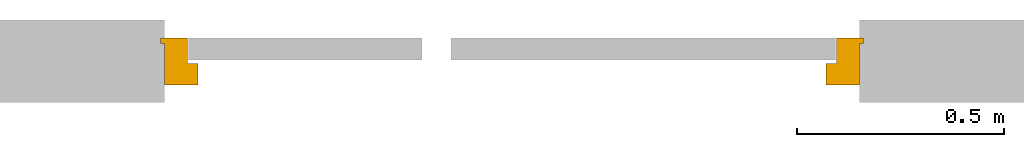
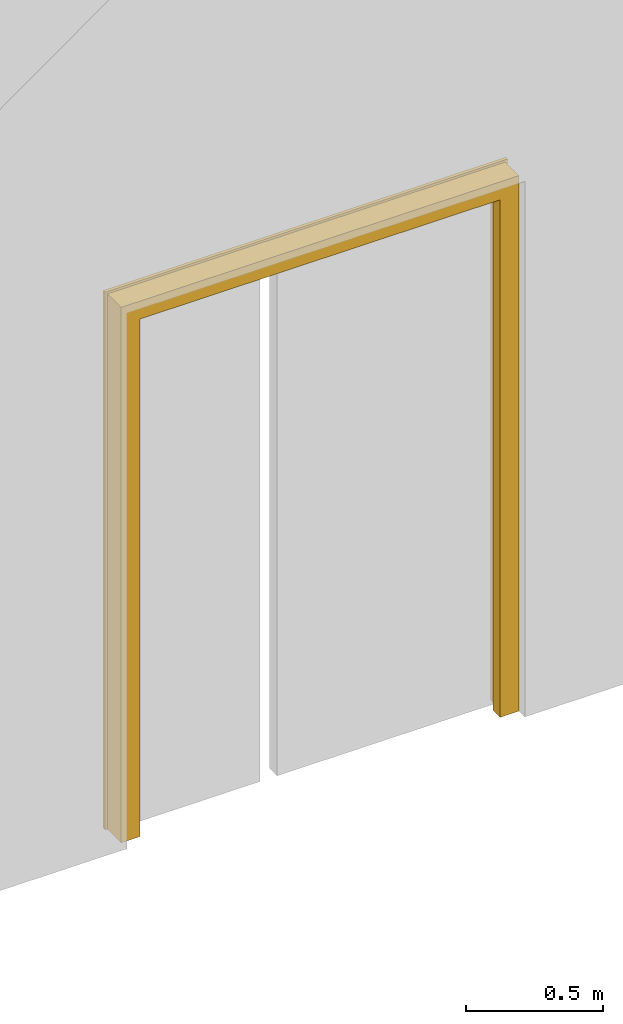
# One storey, part 3 of 3: 1 door.
"""IFC2X3 building model written with IfcOpenShell, lengths in millimetres."""

from ifc_helpers import new_model, entity, si_unit, converted_unit, derived_unit, direction, frame, origin, place, context, subcontext, project, spatial, faceted_brep, source, transform, mapped, material, type_object, type_shapes, element, save


model = new_model("IFC2X3")

# Units and contexts
model_context = context("Model", 3, precision=0.01, world=origin(), true_north=direction((6.12303176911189e-17, 1.0)))
plan_context = context("Plan", 3, precision=0.01, world=origin(), true_north=direction((6.12303176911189e-17, 1.0)))
body_context = subcontext(model_context, "Body", "Model", "MODEL_VIEW")
ifc_project = project(units=[si_unit("LENGTHUNIT", "METRE", prefix="MILLI"), si_unit("AREAUNIT", "SQUARE_METRE"), si_unit("VOLUMEUNIT", "CUBIC_METRE"), converted_unit("PLANEANGLEUNIT", "DEGREE", entity("IfcRatioMeasure", 0.0174532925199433), si_unit("PLANEANGLEUNIT", "RADIAN"), dimensions=[0, 0, 0, 0, 0, 0, 0]), si_unit("MASSUNIT", "GRAM", prefix="KILO"), derived_unit("MASSDENSITYUNIT", [(si_unit("MASSUNIT", "GRAM", prefix="KILO"), 1), (si_unit("LENGTHUNIT", "METRE"), -3)]), derived_unit("MOMENTOFINERTIAUNIT", [(si_unit("LENGTHUNIT", "METRE"), 4)]), si_unit("TIMEUNIT", "SECOND"), si_unit("FREQUENCYUNIT", "HERTZ"), si_unit("THERMODYNAMICTEMPERATUREUNIT", "DEGREE_CELSIUS"), derived_unit("THERMALTRANSMITTANCEUNIT", [(si_unit("MASSUNIT", "GRAM", prefix="KILO"), 1), (si_unit("THERMODYNAMICTEMPERATUREUNIT", "KELVIN"), -1), (si_unit("TIMEUNIT", "SECOND"), -3)]), derived_unit("VOLUMETRICFLOWRATEUNIT", [(si_unit("LENGTHUNIT", "METRE"), 3), (si_unit("TIMEUNIT", "SECOND"), -1)]), si_unit("ELECTRICCURRENTUNIT", "AMPERE"), si_unit("ELECTRICVOLTAGEUNIT", "VOLT"), si_unit("POWERUNIT", "WATT"), si_unit("FORCEUNIT", "NEWTON", prefix="KILO"), si_unit("ILLUMINANCEUNIT", "LUX"), si_unit("LUMINOUSFLUXUNIT", "LUMEN"), si_unit("LUMINOUSINTENSITYUNIT", "CANDELA"), derived_unit("USERDEFINED", [(si_unit("MASSUNIT", "GRAM", prefix="KILO"), -1), (si_unit("LENGTHUNIT", "METRE"), -2), (si_unit("TIMEUNIT", "SECOND"), 3), (si_unit("LUMINOUSFLUXUNIT", "LUMEN"), 1)]), derived_unit("LINEARVELOCITYUNIT", [(si_unit("LENGTHUNIT", "METRE"), 1), (si_unit("TIMEUNIT", "SECOND"), -1)]), si_unit("PRESSUREUNIT", "PASCAL"), derived_unit("USERDEFINED", [(si_unit("LENGTHUNIT", "METRE"), -2), (si_unit("MASSUNIT", "GRAM", prefix="KILO"), 1), (si_unit("TIMEUNIT", "SECOND"), -2)]), derived_unit("LINEARFORCEUNIT", [(si_unit("MASSUNIT", "GRAM", prefix="KILO"), 1), (si_unit("LENGTHUNIT", "METRE"), 1), (si_unit("TIMEUNIT", "SECOND"), -2), (si_unit("LENGTHUNIT", "METRE"), -1)]), derived_unit("PLANARFORCEUNIT", [(si_unit("MASSUNIT", "GRAM", prefix="KILO"), 1), (si_unit("LENGTHUNIT", "METRE"), 1), (si_unit("TIMEUNIT", "SECOND"), -2), (si_unit("LENGTHUNIT", "METRE"), -2)])], contexts=[model_context, plan_context])

# Site, building, storey
site_placement = place(None, origin())
site = spatial("IfcSite", under=ifc_project, at=site_placement, Name="Default", CompositionType="ELEMENT")
building_placement = place(site_placement, origin())
building = spatial("IfcBuilding", under=site, at=building_placement, CompositionType="ELEMENT")
storey_placement = place(building_placement, origin())
storey = spatial("IfcBuildingStorey", under=building, at=storey_placement, Name="Level 1", CompositionType="ELEMENT", Elevation=0.0)

# Door
ifc_material = material(Name="n6_binnenkozijn")
door_style = type_object("IfcDoorStyle", Name="32_houten_kozijn_dubbel:Kozijn", ConstructionType="NOTDEFINED", OperationType="NOTDEFINED", ParameterTakesPrecedence=False, Sizeable=False, material=ifc_material)
shared_shape = source(origin(), body_context, "Body", "Brep", [
    faceted_brep([(850.0, 57.0, 0.0), (850.0, 43.0, 0.0), (840.0, 43.0, 0.0), (840.0, -57.0, 0.0), (760.0, -57.0, 0.0), (760.0, -5.0, 0.0), (785.0, -5.0, 0.0), (785.0, 57.0, 0.0), (850.0, 57.0, 2400.0), (850.0, 43.0, 2400.0), (-850.0, 43.0, 2400.0), (-850.0, 43.0, 0.0), (-840.0, 43.0, 0.0), (-840.0, 43.0, 2390.0), (840.0, 43.0, 2390.0), (840.0, -57.0, 2390.0), (-840.0, -57.0, 2390.0), (-840.0, -57.0, 0.0), (-760.0, -57.0, 0.0), (-760.0, -57.0, 2310.0), (760.0, -57.0, 2310.0), (760.0, -5.0, 2310.0), (-760.0, -5.0, 2310.0), (-760.0, -5.0, 0.0), (-785.0, -5.0, 0.0), (-785.0, -5.0, 2335.0), (785.0, -5.0, 2335.0), (785.0, 57.0, 2335.0), (-785.0, 57.0, 2335.0), (-785.0, 57.0, 0.0), (-850.0, 57.0, 0.0), (-850.0, 57.0, 2400.0)], [[[0, 1, 2, 3, 4, 5, 6, 7]], [[1, 0, 8, 9]], [[2, 1, 9, 10, 11, 12, 13, 14]], [[3, 2, 14, 15]], [[4, 3, 15, 16, 17, 18, 19, 20]], [[5, 4, 20, 21]], [[6, 5, 21, 22, 23, 24, 25, 26]], [[7, 6, 26, 27]], [[0, 7, 27, 28, 29, 30, 31, 8]], [[10, 31, 30, 11]], [[30, 29, 24, 23, 18, 17, 12, 11]], [[16, 13, 12, 17]], [[22, 19, 18, 23]], [[28, 25, 24, 29]], [[9, 8, 31, 10]], [[15, 14, 13, 16]], [[27, 26, 25, 28]], [[21, 20, 19, 22]]]),
])
type_shapes(door_style, [shared_shape])
door_placement = place(storey_placement, frame((3263.0808950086, 3020.65404475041, 0.0)))
element("IfcDoor", 1, at=door_placement, inside=storey, type_object=door_style, material=ifc_material, Name="32_houten_kozijn_dubbel:Kozijn", ObjectType="32_houten_kozijn_dubbel:Kozijn", OverallHeight=2400.0, OverallWidth=1700.0, context=body_context, shape_type="MappedRepresentation", body=[
    mapped(shared_shape, transform((0.0, 0.0, 0.0), scale=1.0)),
])

save(model, "model.ifc")
